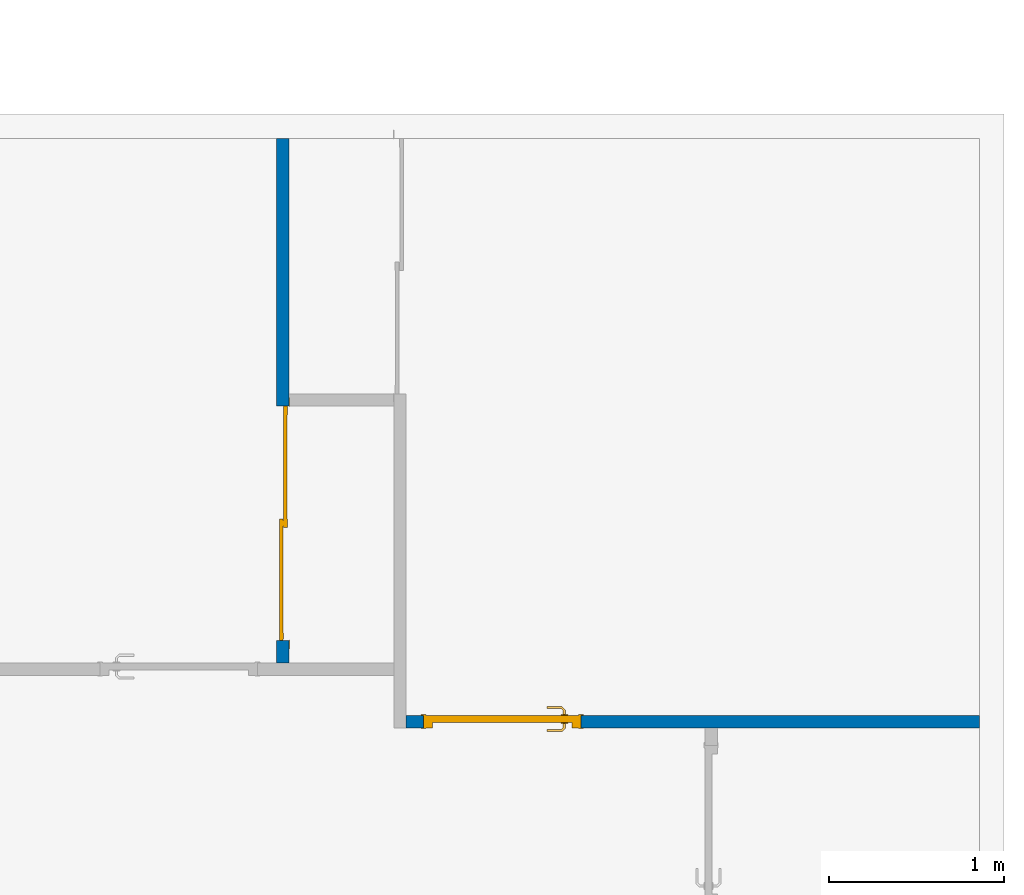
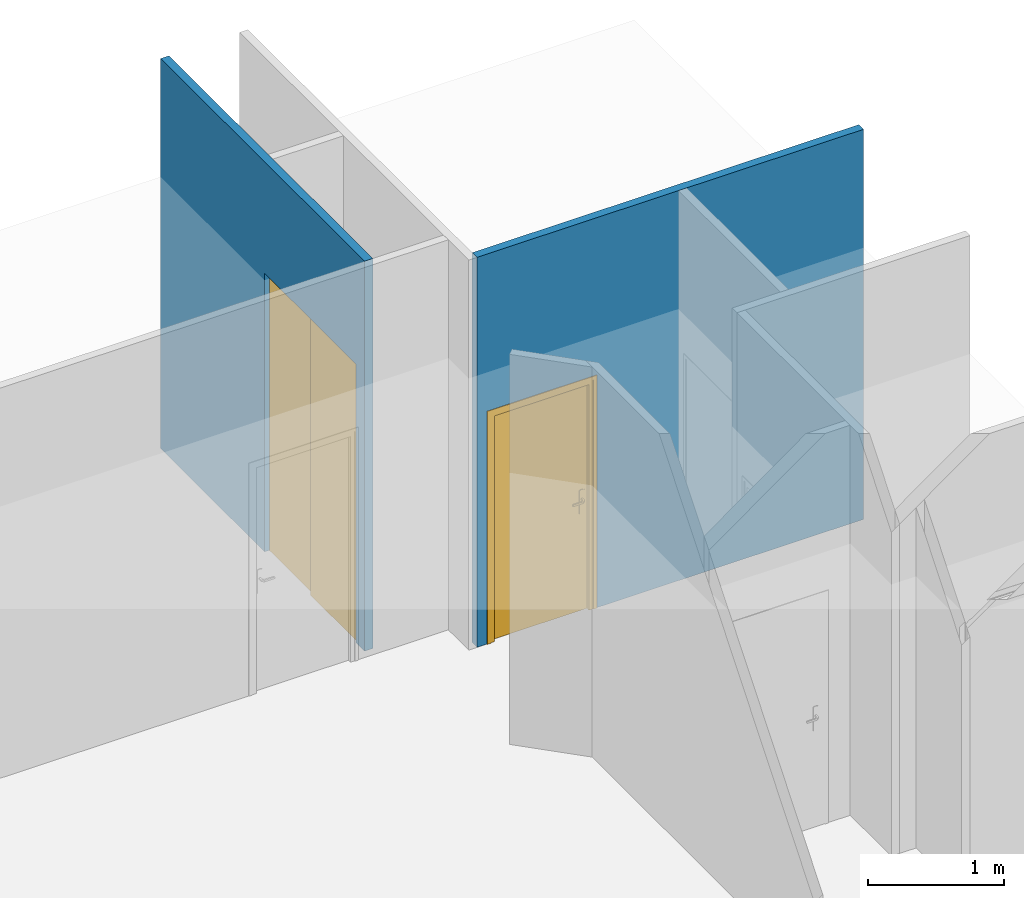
# One storey, part 4 of 7: 2 doors, 2 walls, 2 openings.
"""IFC2X3 building model written with IfcOpenShell, lengths in centimetres."""

from ifc_helpers import new_model, entity, si_unit, converted_unit, derived_unit, direction, frame, frame_2d, origin, origin_2d_with_axis, place, context, subcontext, project, spatial, polyline, circle_curve, parameter, trimmed, segment, composite_curve, rectangle, outline, extrude, faceted_brep, source, transform, mapped, material, material_list, layer, layer_set, layer_usage, type_object, type_shapes, element, fill, save


model = new_model("IFC2X3")

# Units and contexts
model_context = context("Model", 3, precision=0.001, world=origin(), true_north=direction((6.123031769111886e-17, 1.0)))
body_context = subcontext(model_context, "Body", "Model", "MODEL_VIEW")
ifc_project = project(units=[si_unit("LENGTHUNIT", "METRE", prefix="CENTI"), si_unit("AREAUNIT", "SQUARE_METRE"), si_unit("VOLUMEUNIT", "CUBIC_METRE"), converted_unit("PLANEANGLEUNIT", "DEGREE", entity("IfcRatioMeasure", 0.017453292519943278), si_unit("PLANEANGLEUNIT", "RADIAN"), dimensions=[0, 0, 0, 0, 0, 0, 0]), si_unit("MASSUNIT", "GRAM", prefix="KILO"), derived_unit("MASSDENSITYUNIT", [(si_unit("MASSUNIT", "GRAM", prefix="KILO"), 1), (si_unit("LENGTHUNIT", "METRE"), -3)]), derived_unit("MOMENTOFINERTIAUNIT", [(si_unit("LENGTHUNIT", "METRE"), 4)]), si_unit("TIMEUNIT", "SECOND"), si_unit("FREQUENCYUNIT", "HERTZ"), si_unit("THERMODYNAMICTEMPERATUREUNIT", "DEGREE_CELSIUS"), derived_unit("THERMALTRANSMITTANCEUNIT", [(si_unit("MASSUNIT", "GRAM", prefix="KILO"), 1), (si_unit("THERMODYNAMICTEMPERATUREUNIT", "KELVIN"), -1), (si_unit("TIMEUNIT", "SECOND"), -3)]), derived_unit("THERMALCONDUCTANCEUNIT", [(si_unit("MASSUNIT", "GRAM", prefix="KILO"), 1), (si_unit("LENGTHUNIT", "METRE"), 1), (si_unit("THERMODYNAMICTEMPERATUREUNIT", "KELVIN"), -1), (si_unit("TIMEUNIT", "SECOND"), -3)]), derived_unit("VOLUMETRICFLOWRATEUNIT", [(si_unit("LENGTHUNIT", "METRE"), 3), (si_unit("TIMEUNIT", "SECOND"), -1)]), derived_unit("MASSFLOWRATEUNIT", [(si_unit("MASSUNIT", "GRAM", prefix="KILO"), 1), (si_unit("TIMEUNIT", "SECOND"), -1)]), derived_unit("ROTATIONALFREQUENCYUNIT", [(si_unit("TIMEUNIT", "SECOND"), -1)]), si_unit("ELECTRICCURRENTUNIT", "AMPERE"), si_unit("ELECTRICVOLTAGEUNIT", "VOLT"), si_unit("POWERUNIT", "WATT"), si_unit("FORCEUNIT", "NEWTON", prefix="KILO"), si_unit("ILLUMINANCEUNIT", "LUX"), si_unit("LUMINOUSFLUXUNIT", "LUMEN"), si_unit("LUMINOUSINTENSITYUNIT", "CANDELA"), derived_unit("USERDEFINED", [(si_unit("MASSUNIT", "GRAM", prefix="KILO"), -1), (si_unit("LENGTHUNIT", "METRE"), -2), (si_unit("TIMEUNIT", "SECOND"), 3), (si_unit("LUMINOUSFLUXUNIT", "LUMEN"), 1)]), derived_unit("USERDEFINED", [(si_unit("MASSUNIT", "GRAM", prefix="KILO"), 1), (si_unit("LENGTHUNIT", "METRE"), 3), (si_unit("TIMEUNIT", "SECOND"), -3), (si_unit("ELECTRICCURRENTUNIT", "AMPERE"), -2)]), derived_unit("USERDEFINED", [(si_unit("LENGTHUNIT", "METRE"), 2), (si_unit("TIMEUNIT", "SECOND"), -2)]), derived_unit("SOUNDPOWERUNIT", [(si_unit("MASSUNIT", "GRAM", prefix="KILO"), 1), (si_unit("LENGTHUNIT", "METRE"), 2), (si_unit("TIMEUNIT", "SECOND"), -3)]), derived_unit("SOUNDPRESSUREUNIT", [(si_unit("MASSUNIT", "GRAM", prefix="KILO"), 1), (si_unit("LENGTHUNIT", "METRE"), -1), (si_unit("TIMEUNIT", "SECOND"), -2)]), derived_unit("LINEARVELOCITYUNIT", [(si_unit("LENGTHUNIT", "METRE"), 1), (si_unit("TIMEUNIT", "SECOND"), -1)]), si_unit("PRESSUREUNIT", "PASCAL"), derived_unit("USERDEFINED", [(si_unit("LENGTHUNIT", "METRE"), -2), (si_unit("MASSUNIT", "GRAM", prefix="KILO"), 1), (si_unit("TIMEUNIT", "SECOND"), -2)]), derived_unit("LINEARFORCEUNIT", [(si_unit("MASSUNIT", "GRAM", prefix="KILO"), 1), (si_unit("LENGTHUNIT", "METRE"), 1), (si_unit("TIMEUNIT", "SECOND"), -2), (si_unit("LENGTHUNIT", "METRE"), -1)]), derived_unit("PLANARFORCEUNIT", [(si_unit("MASSUNIT", "GRAM", prefix="KILO"), 1), (si_unit("LENGTHUNIT", "METRE"), 1), (si_unit("TIMEUNIT", "SECOND"), -2), (si_unit("LENGTHUNIT", "METRE"), -2)]), derived_unit("SPECIFICHEATCAPACITYUNIT", [(si_unit("LENGTHUNIT", "METRE"), 2), (si_unit("TIMEUNIT", "SECOND"), -2), (si_unit("THERMODYNAMICTEMPERATUREUNIT", "KELVIN"), -1)]), derived_unit("VAPORPERMEABILITYUNIT", [(si_unit("TIMEUNIT", "SECOND"), 1), (si_unit("LENGTHUNIT", "METRE"), -1)]), derived_unit("DYNAMICVISCOSITYUNIT", [(si_unit("MASSUNIT", "GRAM", prefix="KILO"), 1), (si_unit("LENGTHUNIT", "METRE"), -1), (si_unit("TIMEUNIT", "SECOND"), -1)]), derived_unit("THERMALEXPANSIONCOEFFICIENTUNIT", [(si_unit("THERMODYNAMICTEMPERATUREUNIT", "KELVIN"), -1)])], contexts=[model_context])

# Site, building, storey
site_placement = place(None, origin())
site = spatial("IfcSite", under=ifc_project, at=site_placement, Name="Default", CompositionType="ELEMENT")
building_placement = place(site_placement, origin())
building = spatial("IfcBuilding", under=site, at=building_placement, CompositionType="ELEMENT")
storey_placement = place(building_placement, origin())
storey = spatial("IfcBuildingStorey", under=building, at=storey_placement, Name="1_Rez-de-chaussée", CompositionType="ELEMENT", Elevation=0.0)

# Wall, opening, door
ifc_material_1 = material(Name="Mur par défaut")
ifc_layer = layer(ifc_material_1, 7.0)
ifc_layer_set = layer_set([ifc_layer], Name="Mur de base:Int. plâtre 70 mm")
ifc_layer_usage = layer_usage(ifc_layer_set, "AXIS2", "NEGATIVE", 3.4999999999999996)
wall_type = type_object("IfcWallType", Name="Mur de base:Int. plâtre 70 mm", PredefinedType="STANDARD", material=ifc_layer_set)
wall_1_placement = place(storey_placement, frame((-16.568443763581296, 342.64664587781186, 0.0), z_axis=(0.0, 0.0, 1.0), x_axis=(0.0, -1.0, 0.0)))
wall_1 = element("IfcWallStandardCase", 1, at=wall_1_placement, inside=storey, type_object=wall_type, material=ifc_layer_usage, Name="Mur de base:Int. plâtre 70 mm", ObjectType="Mur de base:Int. plâtre 70 mm", context=body_context, shape_type="SweptSolid", body=[
    extrude(rectangle(XDim=300.0000000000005, YDim=6.999999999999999, at=frame_2d((150.00000000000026, 0.0), x_axis=(-1.0, 0.0))), origin(), (0.0, 0.0, 1.0), 350.0),
])
opening_1_placement = place(wall_1_placement, frame((153.0, -3.5000000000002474, 0.0)))
opening_1 = element("IfcOpeningElement", 2, at=opening_1_placement, cuts=wall_1, Name="Placard coulissante - 2 panneaux:PL coulissante - 2 panneaux 134/250:1", ObjectType="Opening", context=body_context, shape_type="SweptSolid", body=[
    extrude(rectangle(XDim=249.9999999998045, YDim=133.99999999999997, at=frame_2d((124.99999999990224, 66.99999999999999), x_axis=(1.0, 0.0))), frame((0.0, 0.0, 0.0), z_axis=(0.0, 1.0, 0.0), x_axis=(0.0, 0.0, 1.0)), (0.0, 0.0, 1.0), 6.999999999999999),
])
ifc_material_2 = material(Name="Placard - Profil")
ifc_material_3 = material(Name="Placard - Encadrement")
ifc_material_4 = material(Name="Placard - Porte")
ifc_material_list_1 = material_list([ifc_material_2, ifc_material_3, ifc_material_4])
door_style_1 = type_object("IfcDoorStyle", Name="Placard coulissante - 2 panneaux:PL coulissante - 2 panneaux 134/250", ConstructionType="NOTDEFINED", OperationType="SLIDING_TO_RIGHT", ParameterTakesPrecedence=False, Sizeable=False, material=ifc_material_list_1)
shared_shape_1 = source(origin(), body_context, "Body", "SweptSolid", [
    extrude(outline(composite_curve([segment(polyline([(-2.5000000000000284, -0.10000000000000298), (2.4999999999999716, -0.10000000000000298)]), True, "CONTINUOUS"), segment(polyline([(2.4999999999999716, -0.10000000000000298), (2.499999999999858, 0.10000000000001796)]), True, "CONTINUOUS"), segment(trimmed(circle_curve(frame_2d((0.0, -21.286038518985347), x_axis=(-1.0, 0.0)), 21.531666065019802), [parameter(263.3324595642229)], [parameter(276.66754043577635)], True, "PARAMETER"), True, "CONTINUOUS"), segment(polyline([(-2.5000000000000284, 0.10000000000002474), (-2.5000000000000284, -0.10000000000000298)]), True, "CONTINUOUS")], self_intersect=False)), frame((131.49999999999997, 0.900000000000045, 0.0), z_axis=(0.0, 0.0, 1.0), x_axis=(-1.0, 0.0, 0.0)), (0.0, 0.0, 1.0), 250.0),
    extrude(outline(composite_curve([segment(polyline([(-2.5000000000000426, -0.10000000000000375), (2.4999999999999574, -0.10000000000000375)]), True, "CONTINUOUS"), segment(polyline([(2.4999999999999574, -0.10000000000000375), (2.4999999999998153, 0.10000000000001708)]), True, "CONTINUOUS"), segment(trimmed(circle_curve(frame_2d((0.0, -21.286038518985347), x_axis=(-1.0, 0.0)), 21.531666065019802), [parameter(263.3324595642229)], [parameter(276.66754043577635)], True, "PARAMETER"), True, "CONTINUOUS"), segment(polyline([(-2.5000000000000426, 0.10000000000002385), (-2.5000000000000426, -0.10000000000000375)]), True, "CONTINUOUS")], self_intersect=False)), frame((67.0, 0.9000000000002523, 0.0), z_axis=(0.0, 0.0, 1.0), x_axis=(-1.0, 0.0, 0.0)), (0.0, 0.0, 1.0), 250.0),
    extrude(outline(composite_curve([segment(polyline([(-2.5000000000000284, -0.10000000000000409), (2.4999999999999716, -0.10000000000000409)]), True, "CONTINUOUS"), segment(polyline([(2.4999999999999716, -0.10000000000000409), (2.4999999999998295, 0.10000000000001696)]), True, "CONTINUOUS"), segment(trimmed(circle_curve(frame_2d((0.0, -21.286038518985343), x_axis=(-1.0, 0.0)), 21.531666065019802), [parameter(263.3324595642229)], [parameter(276.66754043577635)], True, "PARAMETER"), True, "CONTINUOUS"), segment(polyline([(-2.5000000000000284, 0.10000000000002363), (-2.5000000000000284, -0.10000000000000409)]), True, "CONTINUOUS")], self_intersect=False)), frame((67.0, 3.400000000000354, 0.0), z_axis=(0.0, 0.0, 1.0), x_axis=(-1.0, 0.0, 0.0)), (0.0, 0.0, 1.0), 250.0),
    extrude(outline(composite_curve([segment(polyline([(-2.500000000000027, -0.10000000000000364), (2.499999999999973, -0.10000000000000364)]), True, "CONTINUOUS"), segment(polyline([(2.499999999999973, -0.10000000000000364), (2.499999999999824, 0.10000000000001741)]), True, "CONTINUOUS"), segment(trimmed(circle_curve(frame_2d((0.0, -21.286038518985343), x_axis=(-1.0, 0.0)), 21.531666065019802), [parameter(263.3324595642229)], [parameter(276.66754043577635)], True, "PARAMETER"), True, "CONTINUOUS"), segment(polyline([(-2.500000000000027, 0.10000000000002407), (-2.500000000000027, -0.10000000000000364)]), True, "CONTINUOUS")], self_intersect=False)), frame((2.499999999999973, 3.400000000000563, 0.0), z_axis=(0.0, 0.0, 1.0), x_axis=(-1.0, 0.0, 0.0)), (0.0, 0.0, 1.0), 250.0),
    extrude(outline(polyline([(-126.14999999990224, -71.79999999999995), (128.64999999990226, -71.79999999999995), (128.64999999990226, 71.79999999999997), (-126.14999999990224, 71.79999999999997), (-126.14999999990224, 66.79999999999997), (123.64999999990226, 66.79999999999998), (123.64999999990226, -66.79999999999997), (-126.14999999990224, -66.79999999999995), (-126.14999999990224, -71.79999999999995)])), frame((67.0, -0.300000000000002, 126.14999999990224), z_axis=(0.0, 1.0, 0.0), x_axis=(0.0, 0.0, 1.0)), (0.0, 0.0, 1.0), 0.30000000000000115),
    extrude(rectangle(XDim=2.000000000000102, YDim=69.50000000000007, at=frame_2d((0.0, -7.105427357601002e-15), x_axis=(1.0, 0.0))), frame((99.24999999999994, 2.0, 0.0), z_axis=(0.0, 0.0, 1.0), x_axis=(0.0, 1.0, 0.0)), (0.0, 0.0, 1.0), 250.0),
    extrude(rectangle(XDim=1.9999999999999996, YDim=69.4999999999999, at=origin_2d_with_axis()), frame((34.74999999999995, 4.500000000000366, 0.0), z_axis=(0.0, 0.0, 1.0), x_axis=(0.0, 1.0, 0.0)), (0.0, 0.0, 1.0), 250.0),
])
type_shapes(door_style_1, [shared_shape_1])
door_1_placement = place(opening_1_placement, frame((134.0, 7.0, 0.0), z_axis=(0.0, 0.0, 1.0), x_axis=(-1.0, 0.0, 0.0)))
door_1 = element("IfcDoor", 3, at=door_1_placement, inside=storey, type_object=door_style_1, material=ifc_material_list_1, Name="Placard coulissante - 2 panneaux:PL coulissante - 2 panneaux 134/250", ObjectType="Placard coulissante - 2 panneaux:PL coulissante - 2 panneaux 134/250", OverallHeight=249.9999999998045, OverallWidth=133.99999999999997, context=body_context, shape_type="MappedRepresentation", body=[
    mapped(shared_shape_1, transform((0.0, 0.0, 0.0), scale=1.0)),
])
fill(opening_1, door_1)

wall_2_placement = place(storey_placement, frame((53.931556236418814, 9.146645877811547, 0.0)))
wall_2 = element("IfcWallStandardCase", 4, at=wall_2_placement, inside=storey, type_object=wall_type, material=ifc_layer_usage, Name="Mur de base:Int. plâtre 70 mm", ObjectType="Mur de base:Int. plâtre 70 mm", context=body_context, shape_type="SweptSolid", body=[
    extrude(rectangle(XDim=328.0000000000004, YDim=6.999999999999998, at=frame_2d((164.00000000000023, 6.661338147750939e-16), x_axis=(1.0, 0.0))), origin(), (0.0, 0.0, 1.0), 350.0),
])
opening_2_placement = place(wall_2_placement, frame((10.0, -3.500000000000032, 0.0)))
opening_2 = element("IfcOpeningElement", 5, at=opening_2_placement, cuts=wall_2, Name="Int. Simple:PP (0.83m x 2.04m):1", ObjectType="Opening", context=body_context, shape_type="SweptSolid", body=[
    extrude(rectangle(XDim=207.49999999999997, YDim=90.0, at=frame_2d((103.74999999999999, 45.0), x_axis=(1.0, 0.0))), frame((0.0, 0.0, 0.0), z_axis=(0.0, 1.0, 0.0), x_axis=(0.0, 0.0, 1.0)), (0.0, 0.0, 1.0), 6.999999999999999),
])
ifc_material_5 = material(Name="Finition Peinture - Blanc satiné")
ifc_material_6 = material(Name="Bois - Panneau de porte")
ifc_material_7 = material(Name="Bois - Cadre de porte")
ifc_material_list_2 = material_list([ifc_material_5, ifc_material_6, ifc_material_7])
door_style_2 = type_object("IfcDoorStyle", Name="Int. Simple:PP (0.83m x 2.04m)", ConstructionType="NOTDEFINED", OperationType="NOTDEFINED", ParameterTakesPrecedence=False, Sizeable=False, material=ifc_material_list_2)
shared_shape_2 = source(origin(), body_context, "Body", "Brep", [
    faceted_brep([(10.535276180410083, -0.5000000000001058, 86.6003983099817), (11.499999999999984, -0.500000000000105, 87.0), (11.499999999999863, -0.500000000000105, 108.0), (10.535276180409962, -0.5000000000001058, 108.39960169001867), (9.499999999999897, -0.5000000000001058, 108.5358983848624), (8.46472381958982, -0.5000000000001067, 108.39960169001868), (7.499999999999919, -0.5000000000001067, 108.0), (7.500000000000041, -0.5000000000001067, 87.0), (8.464723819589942, -0.5000000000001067, 86.6003983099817), (9.500000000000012, -0.5000000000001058, 86.46410161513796), (10.535276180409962, 0.0, 108.39960169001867), (11.499999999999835, 0.0, 108.0), (11.499999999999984, 0.0, 87.0), (10.535276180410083, 0.0, 86.6003983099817), (9.500000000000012, 0.0, 86.46410161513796), (8.464723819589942, 0.0, 86.6003983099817), (7.499999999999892, 0.0, 87.0), (7.499999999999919, 0.0, 108.0), (8.46472381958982, 0.0, 108.39960169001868), (9.499999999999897, 0.0, 108.5358983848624)], [[[0, 1, 2, 3, 4, 5, 6, 7, 8, 9]], [[10, 11, 12, 13, 14, 15, 16, 17, 18, 19]], [[16, 15, 8, 7]], [[8, 15, 14, 9]], [[14, 13, 0, 9]], [[13, 12, 1, 0]], [[2, 1, 12, 11]], [[11, 10, 3, 2]], [[3, 10, 19, 4]], [[19, 18, 5, 4]], [[18, 17, 6, 5]], [[7, 6, 17, 16]]]),
    faceted_brep([(10.535276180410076, 4.0, 86.6003983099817), (11.499999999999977, 4.0, 87.0), (11.499999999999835, 4.0, 108.0), (10.535276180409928, 4.0, 108.39960169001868), (9.499999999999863, 4.0, 108.5358983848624), (8.4647238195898, 4.0, 108.39960169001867), (7.499999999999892, 4.0, 108.0), (7.500000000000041, 4.0, 87.0), (8.464723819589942, 4.0, 86.60039830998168), (9.500000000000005, 4.0, 86.46410161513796), (10.535276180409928, 4.4999999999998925, 108.39960169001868), (11.49999999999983, 4.499999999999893, 108.0), (11.499999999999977, 4.499999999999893, 87.0), (10.535276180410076, 4.4999999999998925, 86.6003983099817), (9.500000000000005, 4.4999999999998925, 86.46410161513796), (8.464723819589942, 4.4999999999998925, 86.60039830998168), (7.499999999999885, 4.499999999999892, 87.0), (7.499999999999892, 4.499999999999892, 108.0), (8.4647238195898, 4.4999999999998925, 108.39960169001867), (9.499999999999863, 4.4999999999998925, 108.5358983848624)], [[[0, 1, 2, 3, 4, 5, 6, 7, 8, 9]], [[10, 11, 12, 13, 14, 15, 16, 17, 18, 19]], [[11, 10, 3, 2]], [[3, 10, 19, 4]], [[19, 18, 5, 4]], [[18, 17, 6, 5]], [[7, 6, 17, 16]], [[16, 15, 8, 7]], [[8, 15, 14, 9]], [[14, 13, 0, 9]], [[13, 12, 1, 0]], [[2, 1, 12, 11]]]),
    faceted_brep([(9.297470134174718, -0.5000000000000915, 100.77804408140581), (9.702529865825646, -0.5000000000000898, 100.77804408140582), (10.100000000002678, -0.500000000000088, 100.6999999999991), (10.100000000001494, -0.500000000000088, 99.30000000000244), (9.702529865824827, -0.5000000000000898, 99.22195591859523), (9.297470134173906, -0.5000000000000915, 99.221955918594), (8.899999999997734, -0.5000000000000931, 99.29999999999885), (8.89999999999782, -0.5000000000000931, 100.69999999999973), (8.899999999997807, -3.265095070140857, 100.69999999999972), (9.297470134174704, -3.100457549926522, 100.77804408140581), (10.902358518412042, -4.705345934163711, 100.77804408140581), (11.070139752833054, -4.300286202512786, 100.77804408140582), (9.702529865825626, -2.932676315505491, 100.77804408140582), (10.100000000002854, -2.768038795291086, 100.69999999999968), (10.100000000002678, -2.7680387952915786, 99.30000000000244), (9.702529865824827, -2.932676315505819, 99.22195591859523), (11.070139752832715, -4.300286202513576, 99.22195591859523), (10.902358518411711, -4.7053459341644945, 99.221955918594), (9.297470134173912, -3.100457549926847, 99.221955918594), (8.899999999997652, -3.265095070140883, 99.29999999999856), (10.73772099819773, -5.102816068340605, 100.69999999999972), (11.234777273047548, -3.902816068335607, 100.69999999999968), (11.23477727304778, -3.9028160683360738, 99.30000000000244), (10.737720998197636, -5.102816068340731, 99.29999999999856), (19.501864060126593, -5.102816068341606, 99.2999999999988), (19.50186406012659, -4.705345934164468, 99.22195591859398), (19.50186406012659, -4.300286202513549, 99.2219559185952), (19.50186406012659, -3.9028160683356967, 99.30000000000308), (19.501864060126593, -3.9028160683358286, 100.69999999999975), (19.501864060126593, -4.30028620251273, 100.7780440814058), (19.501864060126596, -4.705345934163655, 100.77804408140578), (19.501864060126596, -5.102816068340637, 100.69999999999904), (14.730769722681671, -5.102816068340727, 100.69999999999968), (15.286001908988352, -4.502816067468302, 100.7878686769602), (15.368320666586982, -3.9028160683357, 100.6999999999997), (15.368320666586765, -3.902816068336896, 99.30000000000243), (15.28600188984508, -4.502816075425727, 99.21213132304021), (14.730770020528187, -5.1028160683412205, 99.2999999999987)], [[[0, 1, 2, 3, 4, 5, 6, 7]], [[8, 9, 0, 7]], [[9, 10, 11, 12, 1, 0]], [[12, 13, 2, 1]], [[3, 2, 13, 14]], [[14, 15, 4, 3]], [[15, 16, 17, 18, 5, 4]], [[18, 19, 6, 5]], [[7, 6, 19, 8]], [[20, 10, 9, 8]], [[11, 21, 13, 12]], [[14, 13, 21, 22]], [[22, 16, 15, 14]], [[17, 23, 19, 18]], [[8, 19, 23, 20]], [[24, 25, 26, 27, 28, 29, 30, 31]], [[32, 30, 33]], [[31, 30, 32]], [[10, 20, 32]], [[33, 34, 11]], [[21, 11, 34]], [[34, 29, 28]], [[30, 29, 33]], [[29, 34, 33]], [[10, 32, 33]], [[10, 33, 11]], [[22, 21, 34, 28, 27, 35]], [[35, 26, 36]], [[37, 36, 25]], [[22, 35, 16]], [[35, 27, 26]], [[24, 37, 25]], [[23, 17, 37]], [[37, 17, 36]], [[17, 16, 36]], [[16, 35, 36]], [[25, 36, 26]], [[20, 23, 37, 24, 31, 32]]]),
    faceted_brep([(9.297470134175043, 4.499999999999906, 100.77804408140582), (8.899999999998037, 4.499999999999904, 100.69999999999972), (8.899999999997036, 4.499999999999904, 99.29999999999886), (9.297470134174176, 4.499999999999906, 99.22195591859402), (9.702529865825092, 4.499999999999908, 99.22195591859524), (10.100000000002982, 4.499999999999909, 99.30000000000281), (10.100000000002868, 4.499999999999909, 100.69999999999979), (9.702529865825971, 4.499999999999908, 100.77804408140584), (10.10000000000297, 6.748520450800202, 99.30000000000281), (10.100000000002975, 6.748520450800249, 100.69999999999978), (9.70252986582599, 6.913157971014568, 100.77804408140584), (11.083890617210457, 8.294518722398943, 100.77804408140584), (10.916109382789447, 8.69957845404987, 100.77804408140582), (9.297470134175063, 7.080939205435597, 100.77804408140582), (8.899999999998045, 7.245576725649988, 100.69999999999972), (8.899999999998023, 7.245576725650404, 99.29999999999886), (9.29747013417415, 7.080939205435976, 99.22195591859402), (10.916109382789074, 8.69957845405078, 99.22195591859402), (11.083890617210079, 8.294518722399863, 99.22195591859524), (9.70252986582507, 6.91315797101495, 99.22195591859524), (11.248528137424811, 7.897048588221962, 99.30000000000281), (11.248528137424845, 7.897048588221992, 100.69999999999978), (10.751471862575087, 9.097048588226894, 100.69999999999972), (10.751471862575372, 9.097048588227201, 99.29999999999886), (19.504578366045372, 7.89704858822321, 99.30000000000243), (19.50457836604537, 8.294518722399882, 99.22195591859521), (19.50457836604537, 8.699578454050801, 99.22195591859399), (19.50457836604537, 9.097048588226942, 99.29999999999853), (19.504578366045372, 9.097048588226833, 100.69999999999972), (19.504578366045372, 8.699578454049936, 100.7780440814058), (19.504578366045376, 8.29451872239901, 100.77804408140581), (19.504578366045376, 7.897048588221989, 100.69999999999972), (15.376552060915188, 7.897048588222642, 99.3000000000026), (15.376553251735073, 7.897048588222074, 100.69999999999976), (15.294234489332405, 8.497048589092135, 100.78786867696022), (14.744520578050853, 9.097048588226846, 100.69999999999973), (14.744520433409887, 9.097048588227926, 99.29999999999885), (15.29423451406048, 8.497048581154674, 99.21213132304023)], [[[0, 1, 2, 3, 4, 5, 6, 7]], [[6, 5, 8, 9]], [[9, 10, 7, 6]], [[10, 11, 12, 13, 0, 7]], [[13, 14, 1, 0]], [[2, 1, 14, 15]], [[15, 16, 3, 2]], [[16, 17, 18, 19, 4, 3]], [[19, 8, 5, 4]], [[9, 8, 20, 21]], [[21, 11, 10, 9]], [[12, 22, 14, 13]], [[15, 14, 22, 23]], [[23, 17, 16, 15]], [[18, 20, 8, 19]], [[24, 25, 26, 27, 28, 29, 30, 31]], [[21, 20, 32, 24, 31, 33]], [[33, 30, 34]], [[35, 34, 29]], [[21, 33, 11]], [[33, 31, 30]], [[28, 35, 29]], [[22, 12, 35]], [[35, 12, 34]], [[12, 11, 34]], [[11, 33, 34]], [[29, 34, 30]], [[22, 35, 28, 27, 36, 23]], [[36, 26, 37]], [[27, 26, 36]], [[17, 23, 36]], [[37, 32, 18]], [[20, 18, 32]], [[32, 25, 24]], [[26, 25, 37]], [[25, 32, 37]], [[17, 36, 37]], [[17, 37, 18]]]),
    faceted_brep([(3.4999999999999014, 4.0, 204.0), (86.49999999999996, 4.0, 204.0), (86.4999999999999, 4.0, 0.0), (3.4999999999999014, 4.0, 0.0), (3.4999999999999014, 0.0, 204.0), (3.4999999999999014, 0.0, 0.0), (86.4999999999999, 0.0, 0.0), (86.49999999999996, 0.0, 204.0)], [[[0, 1, 2, 3]], [[4, 5, 6, 7]], [[1, 0, 4, 7]], [[2, 1, 7, 6]], [[3, 2, 6, 5]], [[0, 3, 5, 4]]]),
    faceted_brep([(0.0, 0.0, 0.0), (0.0, 7.0, 0.0), (5.0, 7.0, 0.0), (5.0, 4.0, 0.0), (3.499999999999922, 4.0, 0.0), (3.499999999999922, 0.0, 0.0), (0.0, 0.0, 207.5000000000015), (0.0, 7.0, 207.50000000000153), (90.0, 7.0, 207.5000000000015), (90.0, 7.0, 0.0), (85.0, 7.0, 0.0), (85.0, 7.0, 202.4999999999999), (5.0, 7.0, 202.4999999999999), (5.0, 4.0, 202.4999999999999), (85.0, 4.0, 202.4999999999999), (85.0, 4.0, 0.0), (86.50000000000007, 4.0, 0.0), (86.50000000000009, 4.0, 204.0), (3.499999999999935, 4.0, 204.0), (3.499999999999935, 0.0, 204.0), (86.50000000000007, 0.0, 204.0), (86.50000000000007, 0.0, 0.0), (90.0, 0.0, 0.0), (90.0, 0.0, 207.5000000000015)], [[[0, 1, 2, 3, 4, 5]], [[1, 0, 6, 7]], [[2, 1, 7, 8, 9, 10, 11, 12]], [[3, 2, 12, 13]], [[4, 3, 13, 14, 15, 16, 17, 18]], [[5, 4, 18, 19]], [[0, 5, 19, 20, 21, 22, 23, 6]], [[8, 23, 22, 9]], [[22, 21, 16, 15, 10, 9]], [[14, 11, 10, 15]], [[20, 17, 16, 21]], [[7, 6, 23, 8]], [[13, 12, 11, 14]], [[19, 18, 17, 20]]]),
    faceted_brep([(1.4999999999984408, 7.0, 0.0), (-1.500000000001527, 7.0, 0.0), (-1.500000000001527, 7.499999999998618, 0.0), (1.4999999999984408, 7.499999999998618, 0.0), (1.4999999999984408, 7.0, 206.0), (88.49999999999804, 7.0, 206.0), (88.49999999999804, 7.0, 0.0), (91.49999999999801, 7.0, 0.0), (91.49999999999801, 7.0, 209.0), (-1.500000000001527, 7.0, 209.0), (-1.500000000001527, 7.499999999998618, 209.0), (91.49999999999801, 7.499999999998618, 209.0), (91.49999999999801, 7.499999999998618, 0.0), (88.49999999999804, 7.499999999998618, 0.0), (88.49999999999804, 7.499999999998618, 206.0), (1.4999999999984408, 7.499999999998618, 206.0)], [[[0, 1, 2, 3]], [[1, 0, 4, 5, 6, 7, 8, 9]], [[2, 1, 9, 10]], [[3, 2, 10, 11, 12, 13, 14, 15]], [[0, 3, 15, 4]], [[6, 13, 12, 7]], [[5, 14, 13, 6]], [[11, 8, 7, 12]], [[10, 9, 8, 11]], [[4, 15, 14, 5]]]),
    faceted_brep([(-1.500000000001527, -0.4999999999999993, 0.0), (1.4999999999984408, -0.4999999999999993, 0.0), (1.4999999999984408, -0.4999999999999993, 206.0), (88.49999999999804, -0.4999999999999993, 206.0), (88.49999999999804, -0.4999999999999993, 0.0), (91.49999999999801, -0.4999999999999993, 0.0), (91.49999999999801, -0.4999999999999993, 209.0), (-1.500000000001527, -0.4999999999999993, 209.0), (-1.500000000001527, 0.0, 0.0), (-1.500000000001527, 0.0, 209.0), (1.4999999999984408, 0.0, 0.0), (91.49999999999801, 0.0, 209.0), (91.49999999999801, 0.0, 0.0), (88.49999999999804, 0.0, 0.0), (88.49999999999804, 0.0, 206.0), (1.4999999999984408, 0.0, 206.0)], [[[0, 1, 2, 3, 4, 5, 6, 7]], [[8, 0, 7, 9]], [[10, 8, 9, 11, 12, 13, 14, 15]], [[1, 10, 15, 2]], [[3, 14, 13, 4]], [[11, 6, 5, 12]], [[9, 7, 6, 11]], [[2, 15, 14, 3]], [[4, 13, 12, 5]], [[1, 0, 8, 10]]]),
])
type_shapes(door_style_2, [shared_shape_2])
door_2_placement = place(opening_2_placement, frame((90.0, 7.0, 0.0), z_axis=(0.0, 0.0, 1.0), x_axis=(-1.0, 0.0, 0.0)))
door_2 = element("IfcDoor", 6, at=door_2_placement, inside=storey, type_object=door_style_2, material=ifc_material_list_2, Name="Int. Simple:PP (0.83m x 2.04m)", ObjectType="Int. Simple:PP (0.83m x 2.04m)", OverallHeight=207.49999999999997, OverallWidth=90.0, context=body_context, shape_type="MappedRepresentation", body=[
    mapped(shared_shape_2, transform((0.0, 0.0, 0.0), scale=1.0)),
])
fill(opening_2, door_2)

save(model, "model.ifc")
